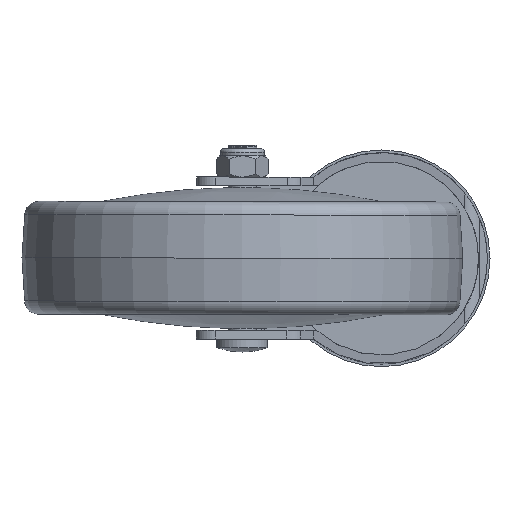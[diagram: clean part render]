
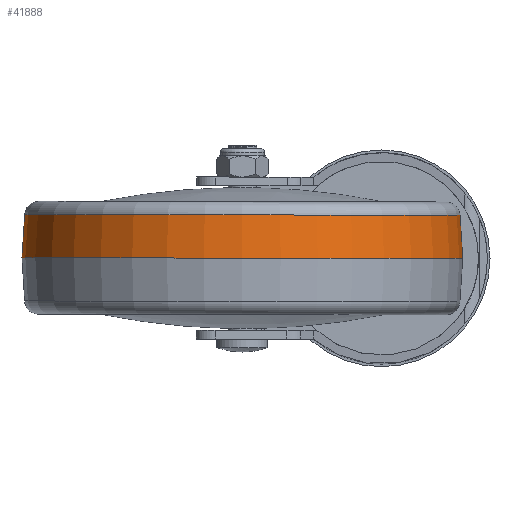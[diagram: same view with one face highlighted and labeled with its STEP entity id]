
A CAD part, front view. The second image highlights one B-rep face of the part: STEP entity #41888.
In plain terms, the highlighted conical face has half-angle 3.576 degrees and reference radius 61.734 mm.
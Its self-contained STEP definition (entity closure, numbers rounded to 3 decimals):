
#459 = LINE ( 'NONE', #19391, #10528 ) ;
#1141 = ORIENTED_EDGE ( 'NONE', *, *, #30086, .F. ) ;
#2475 = CONICAL_SURFACE ( 'NONE', #25565, 61.734, 0.062 ) ;
#4131 = LINE ( 'NONE', #30775, #44489 ) ;
#5565 = EDGE_CURVE ( 'NONE', #47298, #35400, #45400, .T. ) ;
#6402 = AXIS2_PLACEMENT_3D ( 'NONE', #35606, #43564, #36087 ) ;
#7913 = VERTEX_POINT ( 'NONE', #19625 ) ;
#9298 = ORIENTED_EDGE ( 'NONE', *, *, #5565, .T. ) ;
#10528 = VECTOR ( 'NONE', #44833, 1000. ) ;
#15596 = VERTEX_POINT ( 'NONE', #33258 ) ;
#18085 = CARTESIAN_POINT ( 'NONE',  ( -12.25, 0., 0. ) ) ;
#18336 = FACE_OUTER_BOUND ( 'NONE', #22456, .T. ) ;
#19038 = ORIENTED_EDGE ( 'NONE', *, *, #22847, .T. ) ;
#19391 = CARTESIAN_POINT ( 'NONE',  ( -12.25, 0., 61.734 ) ) ;
#19625 = CARTESIAN_POINT ( 'NONE',  ( -12.25, 0., 61.734 ) ) ;
#19928 = DIRECTION ( 'NONE',  ( 0., 0., 1. ) ) ;
#22456 = EDGE_LOOP ( 'NONE', ( #35435, #19038, #9298, #1141 ) ) ;
#22847 = EDGE_CURVE ( 'NONE', #15596, #47298, #4131, .T. ) ;
#23915 = DIRECTION ( 'NONE',  ( -1., 0., 0. ) ) ;
#25201 = AXIS2_PLACEMENT_3D ( 'NONE', #27665, #23915, #19928 ) ;
#25565 = AXIS2_PLACEMENT_3D ( 'NONE', #18085, #41027, #37280 ) ;
#27665 = CARTESIAN_POINT ( 'NONE',  ( -12.25, 0., 0. ) ) ;
#28445 = EDGE_CURVE ( 'NONE', #15596, #7913, #46709, .T. ) ;
#30086 = EDGE_CURVE ( 'NONE', #7913, #35400, #459, .T. ) ;
#30775 = CARTESIAN_POINT ( 'NONE',  ( -12.25, 0., -61.734 ) ) ;
#33258 = CARTESIAN_POINT ( 'NONE',  ( -12.25, 0., -61.734 ) ) ;
#35400 = VERTEX_POINT ( 'NONE', #44948 ) ;
#35435 = ORIENTED_EDGE ( 'NONE', *, *, #28445, .F. ) ;
#35606 = CARTESIAN_POINT ( 'NONE',  ( 0., 0., 0. ) ) ;
#36087 = DIRECTION ( 'NONE',  ( 0., 0., 1. ) ) ;
#37280 = DIRECTION ( 'NONE',  ( 0., 0., 1. ) ) ;
#39176 = CARTESIAN_POINT ( 'NONE',  ( 0., 0., -62.5 ) ) ;
#41027 = DIRECTION ( 'NONE',  ( 1., 0., 0. ) ) ;
#41888 = ADVANCED_FACE ( 'NONE', ( #18336 ), #2475, .T. ) ;
#42251 = DIRECTION ( 'NONE',  ( 0.998, 0., -0.062 ) ) ;
#43564 = DIRECTION ( 'NONE',  ( -1., 0., 0. ) ) ;
#44489 = VECTOR ( 'NONE', #42251, 1000. ) ;
#44833 = DIRECTION ( 'NONE',  ( 0.998, 0., 0.062 ) ) ;
#44948 = CARTESIAN_POINT ( 'NONE',  ( 0., 0., 62.5 ) ) ;
#45400 = CIRCLE ( 'NONE', #6402, 62.5 ) ;
#46709 = CIRCLE ( 'NONE', #25201, 61.734 ) ;
#47298 = VERTEX_POINT ( 'NONE', #39176 ) ;
